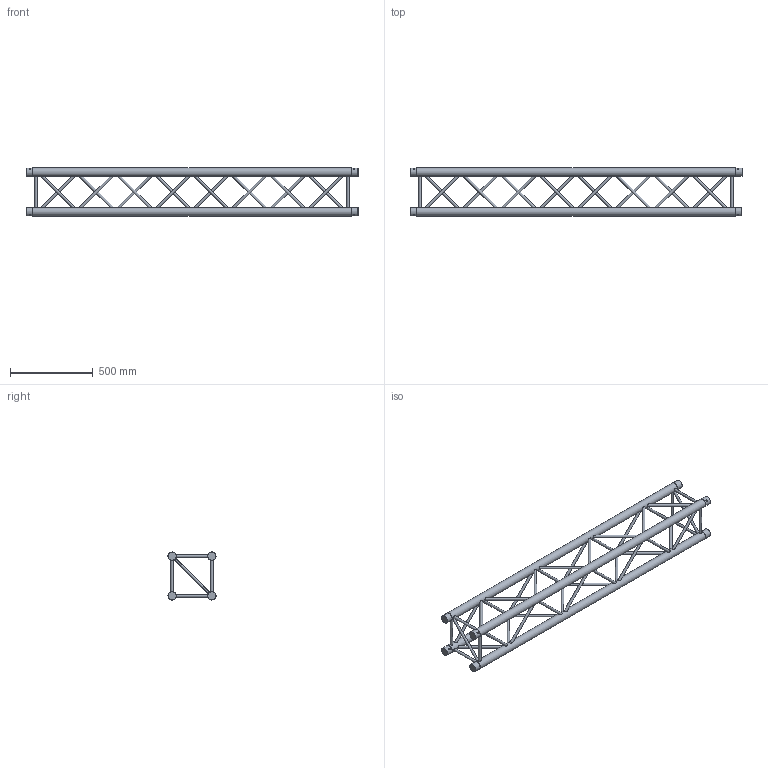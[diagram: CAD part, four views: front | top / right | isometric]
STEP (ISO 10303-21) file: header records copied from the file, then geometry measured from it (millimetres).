
FILE_DESCRIPTION(/* description */ (''),/* implementation_level */ '2;1');
FILE_NAME(/* name */ 'M:\Symbolen\STP\30-er truss\111080144.stp',/* time_stamp */ '2015-01-29T16:54:30+01:00',/* author */ ('Stephan'),/* organization */ (''),/* preprocessor_version */ 'ST-DEVELOPER v15.6',/* originating_system */ 'Autodesk Inventor 2015',/* authorisation */ '');
FILE_SCHEMA (('AUTOMOTIVE_DESIGN { 1 0 10303 214 3 1 1 }'));
Length unit declared in the file: millimetre
Products named in the file (1): 160023720
Bounding box: 2000 x 289.98 x 289.98 mm (x, y, z)
Volume: 18337071.1 mm3; surface area: 1885945.4 mm2
Topology: 46 solids, 46 shells, 264 faces, 436 edges, 260 vertices
Faces by surface type: plane 184, cylinder 72, cone 8
Full cylindrical faces by diameter (mm): 10 x8, 12 x2, 16 x42, 49.5 x8, 51 x4
Entity records: 6949 total; most frequent: CARTESIAN_POINT 1505, DIRECTION 1026, ORIENTED_EDGE 864, AXIS2_PLACEMENT_3D 465, EDGE_LOOP 440, EDGE_CURVE 352, STYLED_ITEM 257, FACE_OUTER_BOUND 256
